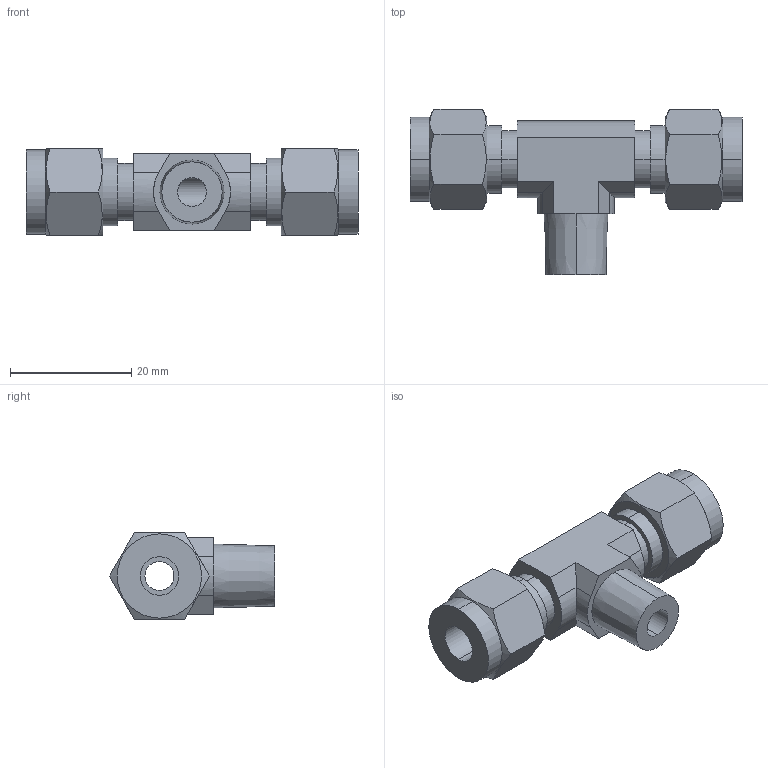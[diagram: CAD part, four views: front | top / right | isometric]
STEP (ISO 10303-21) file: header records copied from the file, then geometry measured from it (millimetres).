
FILE_DESCRIPTION (( 'STEP AP203' ), '1' );
FILE_NAME ('DTN 04-02 SS.STEP', '2009-09-08T10:09:17', ( 'Your User Name' ), ( 'Your Company Name' ), 'SwSTEP 2.0', 'SolidWorks 2008', '' );
FILE_SCHEMA (( 'CONFIG_CONTROL_DESIGN' ));
Length unit declared in the file: millimetre
Products named in the file (1): DTN 04-02 SS
Bounding box: 54.8 x 27.25 x 14.29 mm (x, y, z)
Volume: 7351 mm3; surface area: 4660.6 mm2
Topology: 1 solids, 1 shells, 72 faces, 174 edges, 112 vertices
Faces by surface type: plane 36, cylinder 26, cone 10
Entity records: 2371 total; most frequent: CARTESIAN_POINT 627, ORIENTED_EDGE 348, DIRECTION 336, EDGE_CURVE 174, AXIS2_PLACEMENT_3D 125, VERTEX_POINT 112, VECTOR 86, LINE 86
